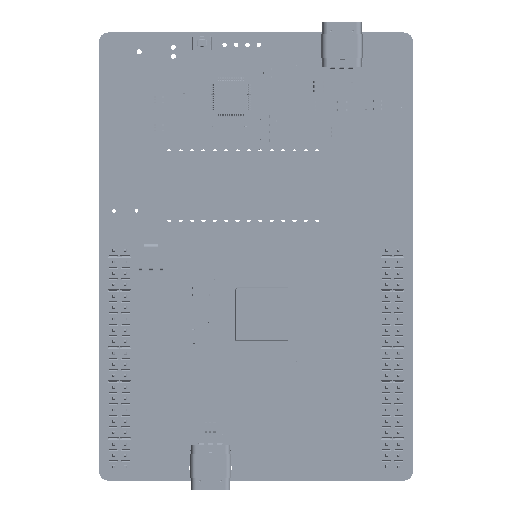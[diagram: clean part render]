
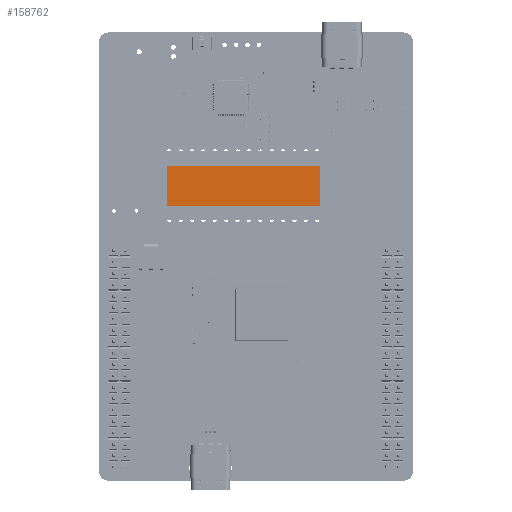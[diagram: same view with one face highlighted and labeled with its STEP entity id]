
A CAD part, top view. The second image highlights one B-rep face of the part: STEP entity #158762.
In plain terms, the highlighted planar face has unit normal (0, 0, 1).
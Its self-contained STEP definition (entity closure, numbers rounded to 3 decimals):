
#158633 = VERTEX_POINT('',#158634);
#158634 = CARTESIAN_POINT('',(17.075,4.425,0.25));
#158640 = EDGE_CURVE('',#158633,#158641,#158643,.T.);
#158641 = VERTEX_POINT('',#158642);
#158642 = CARTESIAN_POINT('',(17.075,-4.425,0.25));
#158643 = LINE('',#158644,#158645);
#158644 = CARTESIAN_POINT('',(17.075,4.425,0.25));
#158645 = VECTOR('',#158646,1.);
#158646 = DIRECTION('',(0.,-1.,0.));
#158671 = EDGE_CURVE('',#158641,#158672,#158674,.T.);
#158672 = VERTEX_POINT('',#158673);
#158673 = CARTESIAN_POINT('',(-17.075,-4.425,0.25));
#158674 = LINE('',#158675,#158676);
#158675 = CARTESIAN_POINT('',(17.075,-4.425,0.25));
#158676 = VECTOR('',#158677,1.);
#158677 = DIRECTION('',(-1.,0.,0.));
#158702 = EDGE_CURVE('',#158672,#158703,#158705,.T.);
#158703 = VERTEX_POINT('',#158704);
#158704 = CARTESIAN_POINT('',(-17.075,4.425,0.25));
#158705 = LINE('',#158706,#158707);
#158706 = CARTESIAN_POINT('',(-17.075,-4.425,0.25));
#158707 = VECTOR('',#158708,1.);
#158708 = DIRECTION('',(0.,1.,0.));
#158733 = EDGE_CURVE('',#158703,#158633,#158734,.T.);
#158734 = LINE('',#158735,#158736);
#158735 = CARTESIAN_POINT('',(-17.075,4.425,0.25));
#158736 = VECTOR('',#158737,1.);
#158737 = DIRECTION('',(1.,0.,0.));
#158762 = ADVANCED_FACE('',(#158763),#158769,.T.);
#158763 = FACE_BOUND('',#158764,.F.);
#158764 = EDGE_LOOP('',(#158765,#158766,#158767,#158768));
#158765 = ORIENTED_EDGE('',*,*,#158640,.T.);
#158766 = ORIENTED_EDGE('',*,*,#158671,.T.);
#158767 = ORIENTED_EDGE('',*,*,#158702,.T.);
#158768 = ORIENTED_EDGE('',*,*,#158733,.T.);
#158769 = PLANE('',#158770);
#158770 = AXIS2_PLACEMENT_3D('',#158771,#158772,#158773);
#158771 = CARTESIAN_POINT('',(17.075,4.425,0.25));
#158772 = DIRECTION('',(0.,0.,1.));
#158773 = DIRECTION('',(1.,0.,0.));
